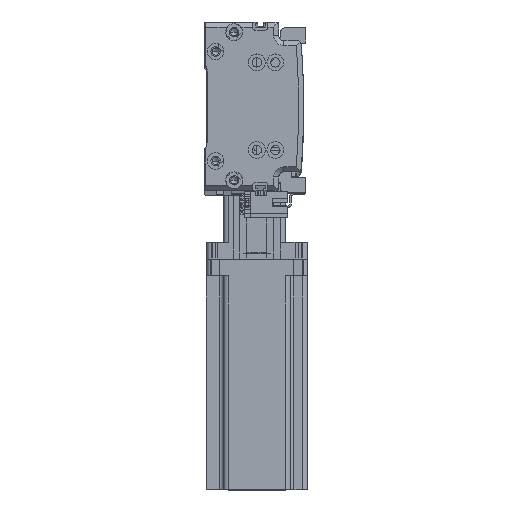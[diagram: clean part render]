
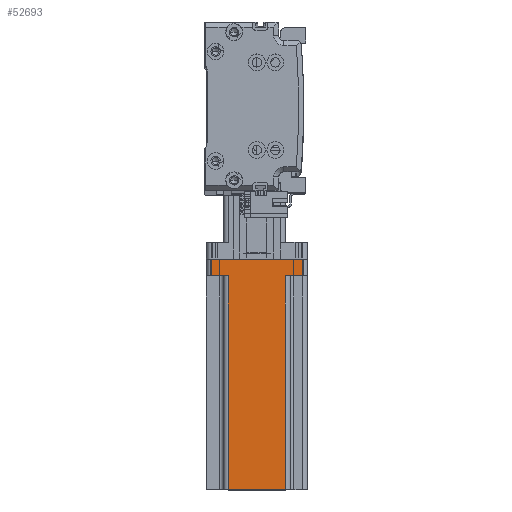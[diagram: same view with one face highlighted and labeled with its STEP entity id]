
A CAD part, top view. The second image highlights one B-rep face of the part: STEP entity #52693.
In plain terms, the highlighted planar face has unit normal (0, 0, 1) as drawn and (0, 1, 0) by its records, which use the part's own axes.
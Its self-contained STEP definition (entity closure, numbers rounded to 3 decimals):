
#791 = LINE ( 'NONE', #26751, #23376 ) ;
#1036 = CARTESIAN_POINT ( 'NONE',  ( 30., 30., 0. ) ) ;
#2668 = ORIENTED_EDGE ( 'NONE', *, *, #8064, .F. ) ;
#3849 = CARTESIAN_POINT ( 'NONE',  ( 17., 30., 10. ) ) ;
#4251 = LINE ( 'NONE', #18279, #50811 ) ;
#5042 = CARTESIAN_POINT ( 'NONE',  ( 27., 30., 10. ) ) ;
#5174 = VECTOR ( 'NONE', #19195, 1000. ) ;
#7173 = VERTEX_POINT ( 'NONE', #5042 ) ;
#7367 = ORIENTED_EDGE ( 'NONE', *, *, #19068, .T. ) ;
#7970 = LINE ( 'NONE', #1036, #5174 ) ;
#8064 = EDGE_CURVE ( 'NONE', #7173, #54888, #47978, .T. ) ;
#8794 = DIRECTION ( 'NONE',  ( 0., -1., 0. ) ) ;
#10141 = EDGE_LOOP ( 'NONE', ( #14099, #27889, #10303, #7367, #2668, #18082, #53486, #17656 ) ) ;
#10303 = ORIENTED_EDGE ( 'NONE', *, *, #31864, .F. ) ;
#10778 = LINE ( 'NONE', #49750, #21399 ) ;
#10782 = LINE ( 'NONE', #27473, #45378 ) ;
#12216 = EDGE_CURVE ( 'NONE', #7173, #16505, #27408, .T. ) ;
#14099 = ORIENTED_EDGE ( 'NONE', *, *, #37925, .T. ) ;
#16505 = VERTEX_POINT ( 'NONE', #23886 ) ;
#16542 = AXIS2_PLACEMENT_3D ( 'NONE', #35780, #8794, #40380 ) ;
#17656 = ORIENTED_EDGE ( 'NONE', *, *, #52626, .T. ) ;
#18082 = ORIENTED_EDGE ( 'NONE', *, *, #12216, .T. ) ;
#18279 = CARTESIAN_POINT ( 'NONE',  ( -17., 30., 137. ) ) ;
#19068 = EDGE_CURVE ( 'NONE', #29562, #54888, #791, .T. ) ;
#19195 = DIRECTION ( 'NONE',  ( -1., 0., 0. ) ) ;
#20227 = FACE_OUTER_BOUND ( 'NONE', #10141, .T. ) ;
#21399 = VECTOR ( 'NONE', #45210, 1000. ) ;
#21997 = VERTEX_POINT ( 'NONE', #35127 ) ;
#22045 = CARTESIAN_POINT ( 'NONE',  ( -27., 30., 137. ) ) ;
#23010 = DIRECTION ( 'NONE',  ( 0., 0., 1. ) ) ;
#23376 = VECTOR ( 'NONE', #49232, 1000. ) ;
#23681 = DIRECTION ( 'NONE',  ( 0., 0., -1. ) ) ;
#23886 = CARTESIAN_POINT ( 'NONE',  ( 27., 30., 0. ) ) ;
#23997 = VECTOR ( 'NONE', #39898, 1000. ) ;
#26751 = CARTESIAN_POINT ( 'NONE',  ( 17., 30., 137. ) ) ;
#27408 = LINE ( 'NONE', #50698, #51397 ) ;
#27473 = CARTESIAN_POINT ( 'NONE',  ( -20., 30., 10. ) ) ;
#27819 = VERTEX_POINT ( 'NONE', #50545 ) ;
#27889 = ORIENTED_EDGE ( 'NONE', *, *, #43205, .T. ) ;
#29562 = VERTEX_POINT ( 'NONE', #33367 ) ;
#31864 = EDGE_CURVE ( 'NONE', #29562, #32792, #10778, .T. ) ;
#32245 = LINE ( 'NONE', #22045, #44213 ) ;
#32792 = VERTEX_POINT ( 'NONE', #48860 ) ;
#33367 = CARTESIAN_POINT ( 'NONE',  ( 17., 30., 137. ) ) ;
#35127 = CARTESIAN_POINT ( 'NONE',  ( -27., 30., 0. ) ) ;
#35780 = CARTESIAN_POINT ( 'NONE',  ( 30., 30., 137. ) ) ;
#37925 = EDGE_CURVE ( 'NONE', #27819, #46527, #10782, .T. ) ;
#37997 = EDGE_CURVE ( 'NONE', #16505, #21997, #7970, .T. ) ;
#39898 = DIRECTION ( 'NONE',  ( -1., 0., 0. ) ) ;
#40380 = DIRECTION ( 'NONE',  ( 1., 0., 0. ) ) ;
#43205 = EDGE_CURVE ( 'NONE', #46527, #32792, #4251, .T. ) ;
#44213 = VECTOR ( 'NONE', #49085, 1000. ) ;
#45210 = DIRECTION ( 'NONE',  ( -1., 0., 0. ) ) ;
#45378 = VECTOR ( 'NONE', #54665, 1000. ) ;
#46527 = VERTEX_POINT ( 'NONE', #54436 ) ;
#47978 = LINE ( 'NONE', #48609, #23997 ) ;
#48609 = CARTESIAN_POINT ( 'NONE',  ( 20., 30., 10. ) ) ;
#48860 = CARTESIAN_POINT ( 'NONE',  ( -17., 30., 137. ) ) ;
#49085 = DIRECTION ( 'NONE',  ( 0., 0., 1. ) ) ;
#49232 = DIRECTION ( 'NONE',  ( 0., 0., -1. ) ) ;
#49750 = CARTESIAN_POINT ( 'NONE',  ( 30., 30., 137. ) ) ;
#50545 = CARTESIAN_POINT ( 'NONE',  ( -27., 30., 10. ) ) ;
#50698 = CARTESIAN_POINT ( 'NONE',  ( 27., 30., 137. ) ) ;
#50811 = VECTOR ( 'NONE', #23010, 1000. ) ;
#51397 = VECTOR ( 'NONE', #23681, 1000. ) ;
#52626 = EDGE_CURVE ( 'NONE', #21997, #27819, #32245, .T. ) ;
#52693 = ADVANCED_FACE ( 'NONE', ( #20227 ), #58080, .F. ) ;
#53486 = ORIENTED_EDGE ( 'NONE', *, *, #37997, .T. ) ;
#54436 = CARTESIAN_POINT ( 'NONE',  ( -17., 30., 10. ) ) ;
#54665 = DIRECTION ( 'NONE',  ( 1., 0., 0. ) ) ;
#54888 = VERTEX_POINT ( 'NONE', #3849 ) ;
#58080 = PLANE ( 'NONE',  #16542 ) ;
